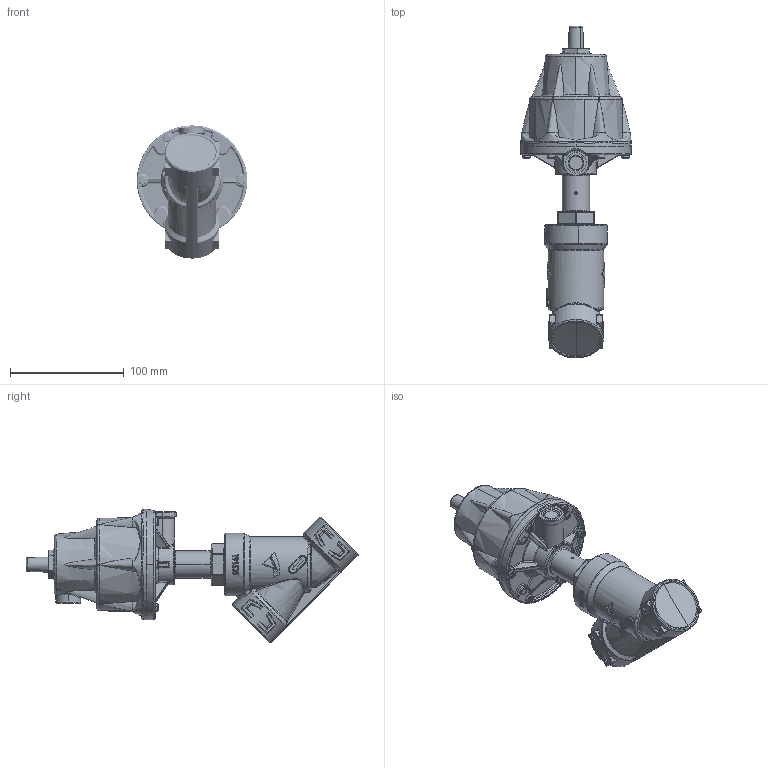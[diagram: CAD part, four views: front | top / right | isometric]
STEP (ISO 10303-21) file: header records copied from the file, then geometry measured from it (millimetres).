
FILE_DESCRIPTION( (''), '2;1');
FILE_NAME ('PC1276.13160.ASV-1000 32A_6146.stp','2025-09-24T09:35:23',(''),(''),'spGate 20.6.3 (****-****-****-****)','','');
FILE_SCHEMA (('AUTOMOTIVE_DESIGN'));
Length unit declared in the file: millimetre
Products named in the file (7): Assembly; Body 32A改1(フロービロー); Packing case 32A; ASV-1000 32A_M1; TORX screw T20M4-16; Actuator cover(ノーマルクローズ); Actuator base
Assembly tree (11 placements, depth 2):
  Assembly
    Body 32A改1(フロービロー)
    Packing case 32A
    ASV-1000 32A_M1
    TORX screw T20M4-16  x6
    Actuator cover(ノーマルクローズ)
    Actuator base
Bounding box: 97 x 292.07 x 117.09 mm (x, y, z)
Volume: 517004.7 mm3; surface area: 105402 mm2
Topology: 10 solids, 11 shells, 1815 faces, 4569 edges, 2736 vertices
Faces by surface type: cylinder 713, bspline 710, plane 308, sphere 84
Entity records: 102458 total; most frequent: CARTESIAN_POINT 48117, ORIENTED_EDGE 6630, COLOUR_RGB 4732, PRESENTATION_STYLE_ASSIGNMENT 4732, STYLED_ITEM 4732, DIRECTION 4635, EDGE_CURVE 3316, DRAUGHTING_PRE_DEFINED_CURVE_FONT 3316
